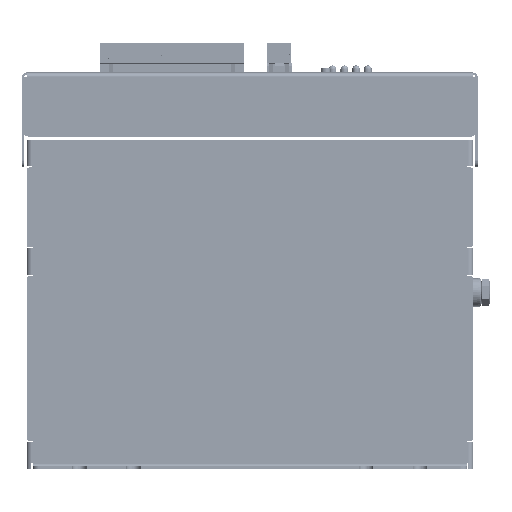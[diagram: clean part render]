
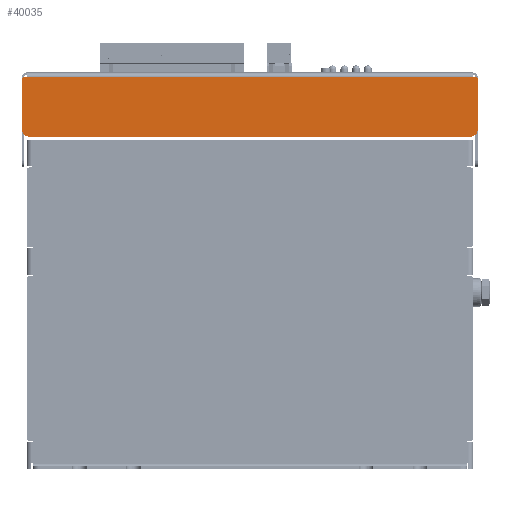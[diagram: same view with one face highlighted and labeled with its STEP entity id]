
A CAD part, left-side view. The second image highlights one B-rep face of the part: STEP entity #40035.
In plain terms, the highlighted planar face has unit normal (-1, 0, 0).
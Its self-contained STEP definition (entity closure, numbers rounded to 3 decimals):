
#40035=ADVANCED_FACE('',(#103349),#103351,.T.);
#103349=FACE_BOUND('',#103350,.T.);
#103350=EDGE_LOOP('',(#157762,#157763,#157764,#157765,#157766,#157767,#157768,#157769,
#157770,#157771));
#103351=PLANE('',#103352);
#103352=AXIS2_PLACEMENT_3D('',#103353,#103354,#103355);
#103353=CARTESIAN_POINT('',(-50.,0.,122.1));
#103354=DIRECTION('',(-1.,0.,0.));
#103355=DIRECTION('',(0.,-1.,0.));
#157762=ORIENTED_EDGE('',*,*,#197856,.F.);
#157763=ORIENTED_EDGE('',*,*,#197870,.T.);
#157764=ORIENTED_EDGE('',*,*,#197869,.F.);
#157765=ORIENTED_EDGE('',*,*,#197867,.T.);
#157766=ORIENTED_EDGE('',*,*,#197865,.F.);
#157767=ORIENTED_EDGE('',*,*,#197863,.T.);
#157768=ORIENTED_EDGE('',*,*,#197871,.T.);
#157769=ORIENTED_EDGE('',*,*,#197861,.T.);
#157770=ORIENTED_EDGE('',*,*,#197860,.F.);
#157771=ORIENTED_EDGE('',*,*,#197857,.T.);
#197856=EDGE_CURVE('',#230051,#230049,#230053,.F.);
#197857=EDGE_CURVE('',#230054,#230049,#230055,.T.);
#197860=EDGE_CURVE('',#230054,#230057,#230059,.F.);
#197861=EDGE_CURVE('',#229948,#230057,#230060,.T.);
#197863=EDGE_CURVE('',#230061,#229953,#230063,.T.);
#197865=EDGE_CURVE('',#230061,#230064,#230066,.F.);
#197867=EDGE_CURVE('',#230067,#230064,#230069,.T.);
#197869=EDGE_CURVE('',#230067,#230070,#230072,.F.);
#197870=EDGE_CURVE('',#230051,#230070,#230073,.T.);
#197871=EDGE_CURVE('',#229953,#229948,#230074,.T.);
#229948=VERTEX_POINT('',#299980);
#229953=VERTEX_POINT('',#299992);
#230049=VERTEX_POINT('',#300234);
#230051=VERTEX_POINT('',#300238);
#230053=CIRCLE('',#300242,3.);
#230054=VERTEX_POINT('',#300246);
#230055=LINE('',#300247,#300248);
#230057=VERTEX_POINT('',#300253);
#230059=CIRCLE('',#300257,1.);
#230060=LINE('',#300261,#300262);
#230061=VERTEX_POINT('',#300264);
#230063=LINE('',#300268,#300269);
#230064=VERTEX_POINT('',#300271);
#230066=CIRCLE('',#300275,1.);
#230067=VERTEX_POINT('',#300279);
#230069=LINE('',#300283,#300284);
#230070=VERTEX_POINT('',#300286);
#230072=CIRCLE('',#300290,3.);
#230073=LINE('',#300294,#300295);
#230074=LINE('',#300297,#300298);
#299980=CARTESIAN_POINT('',(-50.,95.,120.1));
#299992=CARTESIAN_POINT('',(-50.,-95.,120.1));
#300234=CARTESIAN_POINT('',(-50.,97.,97.8));
#300238=CARTESIAN_POINT('',(-50.,94.,94.8));
#300242=AXIS2_PLACEMENT_3D('',#300243,#300244,#300245);
#300243=CARTESIAN_POINT('',(-50.,94.,97.8));
#300244=DIRECTION('',(-1.,0.,0.));
#300245=DIRECTION('',(0.,1.,0.));
#300246=CARTESIAN_POINT('',(-50.,97.,119.1));
#300247=CARTESIAN_POINT('',(-50.,97.,119.1));
#300248=VECTOR('',#300249,1.);
#300249=DIRECTION('',(0.,0.,-1.));
#300253=CARTESIAN_POINT('',(-50.,96.,120.1));
#300257=AXIS2_PLACEMENT_3D('',#300258,#300259,#300260);
#300258=CARTESIAN_POINT('',(-50.,96.,119.1));
#300259=DIRECTION('',(-1.,0.,0.));
#300260=DIRECTION('',(0.,0.,1.));
#300261=CARTESIAN_POINT('',(-50.,95.,120.1));
#300262=VECTOR('',#300263,1.);
#300263=DIRECTION('',(0.,1.,0.));
#300264=CARTESIAN_POINT('',(-50.,-96.,120.1));
#300268=CARTESIAN_POINT('',(-50.,-96.,120.1));
#300269=VECTOR('',#300270,1.);
#300270=DIRECTION('',(0.,1.,0.));
#300271=CARTESIAN_POINT('',(-50.,-97.,119.1));
#300275=AXIS2_PLACEMENT_3D('',#300276,#300277,#300278);
#300276=CARTESIAN_POINT('',(-50.,-96.,119.1));
#300277=DIRECTION('',(-1.,0.,0.));
#300278=DIRECTION('',(0.,-1.,0.));
#300279=CARTESIAN_POINT('',(-50.,-97.,97.8));
#300283=CARTESIAN_POINT('',(-50.,-97.,97.8));
#300284=VECTOR('',#300285,1.);
#300285=DIRECTION('',(0.,0.,1.));
#300286=CARTESIAN_POINT('',(-50.,-94.,94.8));
#300290=AXIS2_PLACEMENT_3D('',#300291,#300292,#300293);
#300291=CARTESIAN_POINT('',(-50.,-94.,97.8));
#300292=DIRECTION('',(-1.,0.,0.));
#300293=DIRECTION('',(0.,0.,-1.));
#300294=CARTESIAN_POINT('',(-50.,94.,94.8));
#300295=VECTOR('',#300296,1.);
#300296=DIRECTION('',(0.,-1.,0.));
#300297=CARTESIAN_POINT('',(-50.,-95.,120.1));
#300298=VECTOR('',#300299,1.);
#300299=DIRECTION('',(0.,1.,0.));
